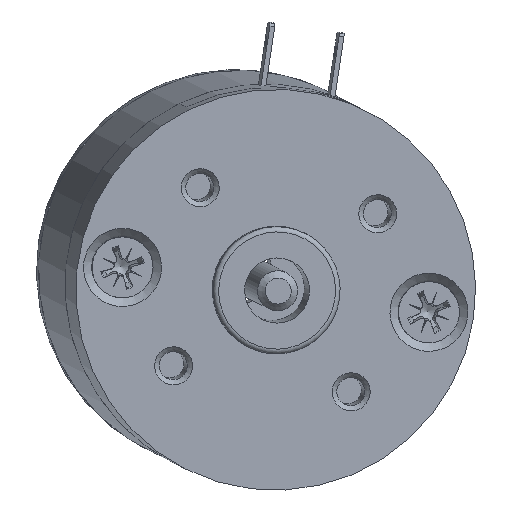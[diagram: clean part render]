
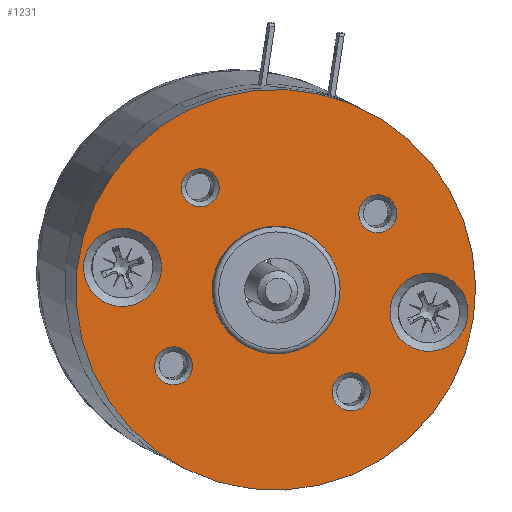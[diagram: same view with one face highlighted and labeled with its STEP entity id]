
A CAD part, top view. The second image highlights one B-rep face of the part: STEP entity #1231.
In plain terms, the highlighted planar face has unit normal (0.085, -0.045, 0.995) as drawn and (0, 0, 1) by its records, which use the part's own axes.
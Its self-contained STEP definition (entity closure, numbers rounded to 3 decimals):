
#1043=CARTESIAN_POINT('',(-19.4,0.,12.6));
#1044=VERTEX_POINT('',#1043);
#1045=CARTESIAN_POINT('',(-15.5,0.,12.6));
#1046=DIRECTION('',(0.0,0.0,-1.0));
#1047=DIRECTION('',(-1.0,0.0,0.0));
#1048=AXIS2_PLACEMENT_3D('',#1045,#1046,#1047);
#1049=CIRCLE('',#1048,3.9);
#1050=EDGE_CURVE('',#1044,#1044,#1049,.T.);
#1091=CARTESIAN_POINT('',(19.4,0.0,12.6));
#1092=VERTEX_POINT('',#1091);
#1093=CARTESIAN_POINT('',(15.5,0.0,12.6));
#1094=DIRECTION('',(0.0,0.0,-1.0));
#1095=DIRECTION('',(1.0,0.0,0.0));
#1096=AXIS2_PLACEMENT_3D('',#1093,#1094,#1095);
#1097=CIRCLE('',#1096,3.9);
#1098=EDGE_CURVE('',#1092,#1092,#1097,.T.);
#1150=CARTESIAN_POINT('',(-8.98,10.88,12.6));
#1151=VERTEX_POINT('',#1150);
#1152=CARTESIAN_POINT('',(-8.98,8.98,12.6));
#1153=DIRECTION('',(0.0,0.0,1.0));
#1154=DIRECTION('',(0.0,-1.0,0.0));
#1155=AXIS2_PLACEMENT_3D('',#1152,#1153,#1154);
#1156=CIRCLE('',#1155,1.9);
#1157=EDGE_CURVE('',#1151,#1151,#1156,.T.);
#1162=CARTESIAN_POINT('',(0.0,0.0,12.6));
#1163=DIRECTION('',(0.0,0.0,-1.0));
#1164=DIRECTION('',(-1.0,0.0,0.0));
#1165=AXIS2_PLACEMENT_3D('',#1162,#1163,#1164);
#1166=PLANE('',#1165);
#1167=CARTESIAN_POINT('',(20.0,0.,12.6));
#1168=VERTEX_POINT('',#1167);
#1169=CARTESIAN_POINT('',(0.0,0.0,12.6));
#1170=DIRECTION('',(0.0,0.0,-1.0));
#1171=DIRECTION('',(-1.0,0.0,0.0));
#1172=AXIS2_PLACEMENT_3D('',#1169,#1170,#1171);
#1173=CIRCLE('',#1172,20.0);
#1174=EDGE_CURVE('',#1168,#1168,#1173,.T.);
#1175=ORIENTED_EDGE('',*,*,#1174,.F.);
#1176=EDGE_LOOP('',(#1175));
#1177=FACE_OUTER_BOUND('',#1176,.T.);
#1178=ORIENTED_EDGE('',*,*,#1050,.T.);
#1179=EDGE_LOOP('',(#1178));
#1180=FACE_BOUND('',#1179,.T.);
#1181=ORIENTED_EDGE('',*,*,#1098,.T.);
#1182=EDGE_LOOP('',(#1181));
#1183=FACE_BOUND('',#1182,.T.);
#1184=CARTESIAN_POINT('',(-10.88,-8.98,12.6));
#1185=VERTEX_POINT('',#1184);
#1186=CARTESIAN_POINT('',(-8.98,-8.98,12.6));
#1187=DIRECTION('',(0.0,0.0,1.0));
#1188=DIRECTION('',(1.0,0.0,0.0));
#1189=AXIS2_PLACEMENT_3D('',#1186,#1187,#1188);
#1190=CIRCLE('',#1189,1.9);
#1191=EDGE_CURVE('',#1185,#1185,#1190,.T.);
#1192=ORIENTED_EDGE('',*,*,#1191,.F.);
#1193=EDGE_LOOP('',(#1192));
#1194=FACE_BOUND('',#1193,.T.);
#1195=CARTESIAN_POINT('',(10.88,8.98,12.6));
#1196=VERTEX_POINT('',#1195);
#1197=CARTESIAN_POINT('',(8.98,8.98,12.6));
#1198=DIRECTION('',(0.0,0.0,1.0));
#1199=DIRECTION('',(-1.0,0.0,0.0));
#1200=AXIS2_PLACEMENT_3D('',#1197,#1198,#1199);
#1201=CIRCLE('',#1200,1.9);
#1202=EDGE_CURVE('',#1196,#1196,#1201,.T.);
#1203=ORIENTED_EDGE('',*,*,#1202,.F.);
#1204=EDGE_LOOP('',(#1203));
#1205=FACE_BOUND('',#1204,.T.);
#1206=CARTESIAN_POINT('',(6.35,0.,12.6));
#1207=VERTEX_POINT('',#1206);
#1208=CARTESIAN_POINT('',(0.0,0.0,12.6));
#1209=DIRECTION('',(0.0,0.0,-1.0));
#1210=DIRECTION('',(-1.0,0.0,0.0));
#1211=AXIS2_PLACEMENT_3D('',#1208,#1209,#1210);
#1212=CIRCLE('',#1211,6.35);
#1213=EDGE_CURVE('',#1207,#1207,#1212,.T.);
#1214=ORIENTED_EDGE('',*,*,#1213,.T.);
#1215=EDGE_LOOP('',(#1214));
#1216=FACE_BOUND('',#1215,.T.);
#1217=CARTESIAN_POINT('',(8.98,-10.88,12.6));
#1218=VERTEX_POINT('',#1217);
#1219=CARTESIAN_POINT('',(8.98,-8.98,12.6));
#1220=DIRECTION('',(0.0,0.0,1.0));
#1221=DIRECTION('',(0.0,1.0,0.0));
#1222=AXIS2_PLACEMENT_3D('',#1219,#1220,#1221);
#1223=CIRCLE('',#1222,1.9);
#1224=EDGE_CURVE('',#1218,#1218,#1223,.T.);
#1225=ORIENTED_EDGE('',*,*,#1224,.F.);
#1226=EDGE_LOOP('',(#1225));
#1227=FACE_BOUND('',#1226,.T.);
#1228=ORIENTED_EDGE('',*,*,#1157,.F.);
#1229=EDGE_LOOP('',(#1228));
#1230=FACE_BOUND('',#1229,.T.);
#1231=ADVANCED_FACE('',(#1177,#1180,#1183,#1194,#1205,#1216,#1227,#1230),#1166,.F.);
